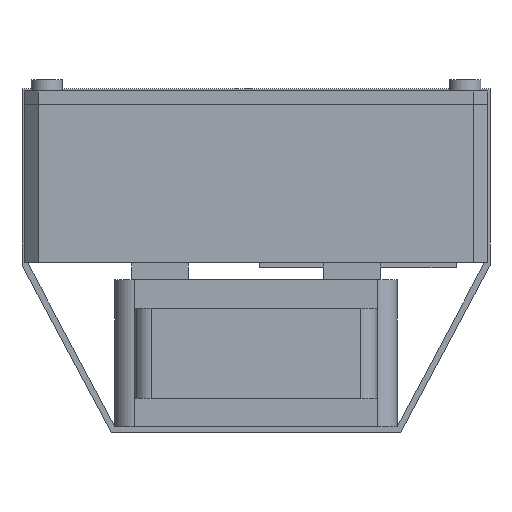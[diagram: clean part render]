
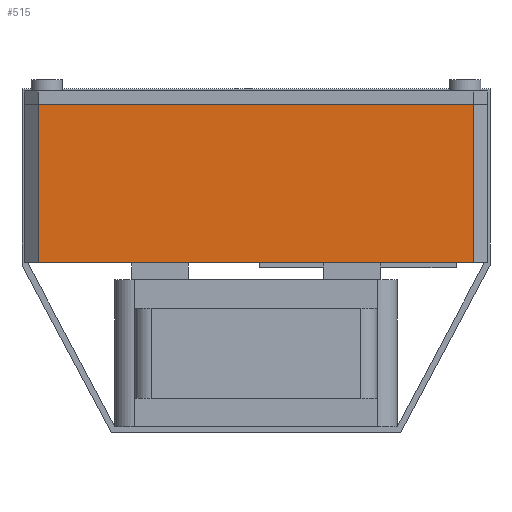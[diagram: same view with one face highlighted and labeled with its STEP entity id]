
A CAD part, front view. The second image highlights one B-rep face of the part: STEP entity #515.
In plain terms, the highlighted planar face has unit normal (0, -1, 0).
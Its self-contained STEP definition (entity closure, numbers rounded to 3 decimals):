
#515 = ADVANCED_FACE('',(#516),#530,.F.);
#516 = FACE_BOUND('',#517,.F.);
#517 = EDGE_LOOP('',(#518,#553,#581,#609));
#518 = ORIENTED_EDGE('',*,*,#519,.T.);
#519 = EDGE_CURVE('',#520,#522,#524,.T.);
#520 = VERTEX_POINT('',#521);
#521 = CARTESIAN_POINT('',(-38.5,-55.,0.));
#522 = VERTEX_POINT('',#523);
#523 = CARTESIAN_POINT('',(-38.5,-55.,28.));
#524 = SURFACE_CURVE('',#525,(#529,#541),.PCURVE_S1.);
#525 = LINE('',#526,#527);
#526 = CARTESIAN_POINT('',(-38.5,-55.,0.));
#527 = VECTOR('',#528,1.);
#528 = DIRECTION('',(0.,0.,1.));
#529 = PCURVE('',#530,#535);
#530 = PLANE('',#531);
#531 = AXIS2_PLACEMENT_3D('',#532,#533,#534);
#532 = CARTESIAN_POINT('',(-38.5,-55.,0.));
#533 = DIRECTION('',(0.,1.,0.));
#534 = DIRECTION('',(1.,0.,0.));
#535 = DEFINITIONAL_REPRESENTATION('',(#536),#540);
#536 = LINE('',#537,#538);
#537 = CARTESIAN_POINT('',(0.,0.));
#538 = VECTOR('',#539,1.);
#539 = DIRECTION('',(0.,-1.));
#540 = ( GEOMETRIC_REPRESENTATION_CONTEXT(2) 
PARAMETRIC_REPRESENTATION_CONTEXT() REPRESENTATION_CONTEXT('2D SPACE',''
  ) );
#541 = PCURVE('',#542,#547);
#542 = PLANE('',#543);
#543 = AXIS2_PLACEMENT_3D('',#544,#545,#546);
#544 = CARTESIAN_POINT('',(-41.,-52.5,0.));
#545 = DIRECTION('',(0.707,0.707,-0.));
#546 = DIRECTION('',(0.707,-0.707,0.));
#547 = DEFINITIONAL_REPRESENTATION('',(#548),#552);
#548 = LINE('',#549,#550);
#549 = CARTESIAN_POINT('',(3.536,0.));
#550 = VECTOR('',#551,1.);
#551 = DIRECTION('',(0.,-1.));
#552 = ( GEOMETRIC_REPRESENTATION_CONTEXT(2) 
PARAMETRIC_REPRESENTATION_CONTEXT() REPRESENTATION_CONTEXT('2D SPACE',''
  ) );
#553 = ORIENTED_EDGE('',*,*,#554,.T.);
#554 = EDGE_CURVE('',#522,#555,#557,.T.);
#555 = VERTEX_POINT('',#556);
#556 = CARTESIAN_POINT('',(38.5,-55.,28.));
#557 = SURFACE_CURVE('',#558,(#562,#569),.PCURVE_S1.);
#558 = LINE('',#559,#560);
#559 = CARTESIAN_POINT('',(-38.5,-55.,28.));
#560 = VECTOR('',#561,1.);
#561 = DIRECTION('',(1.,0.,0.));
#562 = PCURVE('',#530,#563);
#563 = DEFINITIONAL_REPRESENTATION('',(#564),#568);
#564 = LINE('',#565,#566);
#565 = CARTESIAN_POINT('',(0.,-28.));
#566 = VECTOR('',#567,1.);
#567 = DIRECTION('',(1.,0.));
#568 = ( GEOMETRIC_REPRESENTATION_CONTEXT(2) 
PARAMETRIC_REPRESENTATION_CONTEXT() REPRESENTATION_CONTEXT('2D SPACE',''
  ) );
#569 = PCURVE('',#570,#575);
#570 = PLANE('',#571);
#571 = AXIS2_PLACEMENT_3D('',#572,#573,#574);
#572 = CARTESIAN_POINT('',(0.,0.,28.));
#573 = DIRECTION('',(0.,0.,1.));
#574 = DIRECTION('',(1.,0.,-0.));
#575 = DEFINITIONAL_REPRESENTATION('',(#576),#580);
#576 = LINE('',#577,#578);
#577 = CARTESIAN_POINT('',(-38.5,-55.));
#578 = VECTOR('',#579,1.);
#579 = DIRECTION('',(1.,0.));
#580 = ( GEOMETRIC_REPRESENTATION_CONTEXT(2) 
PARAMETRIC_REPRESENTATION_CONTEXT() REPRESENTATION_CONTEXT('2D SPACE',''
  ) );
#581 = ORIENTED_EDGE('',*,*,#582,.F.);
#582 = EDGE_CURVE('',#583,#555,#585,.T.);
#583 = VERTEX_POINT('',#584);
#584 = CARTESIAN_POINT('',(38.5,-55.,0.));
#585 = SURFACE_CURVE('',#586,(#590,#597),.PCURVE_S1.);
#586 = LINE('',#587,#588);
#587 = CARTESIAN_POINT('',(38.5,-55.,0.));
#588 = VECTOR('',#589,1.);
#589 = DIRECTION('',(0.,0.,1.));
#590 = PCURVE('',#530,#591);
#591 = DEFINITIONAL_REPRESENTATION('',(#592),#596);
#592 = LINE('',#593,#594);
#593 = CARTESIAN_POINT('',(77.,0.));
#594 = VECTOR('',#595,1.);
#595 = DIRECTION('',(0.,-1.));
#596 = ( GEOMETRIC_REPRESENTATION_CONTEXT(2) 
PARAMETRIC_REPRESENTATION_CONTEXT() REPRESENTATION_CONTEXT('2D SPACE',''
  ) );
#597 = PCURVE('',#598,#603);
#598 = PLANE('',#599);
#599 = AXIS2_PLACEMENT_3D('',#600,#601,#602);
#600 = CARTESIAN_POINT('',(38.5,-55.,0.));
#601 = DIRECTION('',(-0.707,0.707,0.));
#602 = DIRECTION('',(0.707,0.707,0.));
#603 = DEFINITIONAL_REPRESENTATION('',(#604),#608);
#604 = LINE('',#605,#606);
#605 = CARTESIAN_POINT('',(0.,0.));
#606 = VECTOR('',#607,1.);
#607 = DIRECTION('',(0.,-1.));
#608 = ( GEOMETRIC_REPRESENTATION_CONTEXT(2) 
PARAMETRIC_REPRESENTATION_CONTEXT() REPRESENTATION_CONTEXT('2D SPACE',''
  ) );
#609 = ORIENTED_EDGE('',*,*,#610,.F.);
#610 = EDGE_CURVE('',#520,#583,#611,.T.);
#611 = SURFACE_CURVE('',#612,(#616,#623),.PCURVE_S1.);
#612 = LINE('',#613,#614);
#613 = CARTESIAN_POINT('',(-38.5,-55.,0.));
#614 = VECTOR('',#615,1.);
#615 = DIRECTION('',(1.,0.,0.));
#616 = PCURVE('',#530,#617);
#617 = DEFINITIONAL_REPRESENTATION('',(#618),#622);
#618 = LINE('',#619,#620);
#619 = CARTESIAN_POINT('',(0.,0.));
#620 = VECTOR('',#621,1.);
#621 = DIRECTION('',(1.,0.));
#622 = ( GEOMETRIC_REPRESENTATION_CONTEXT(2) 
PARAMETRIC_REPRESENTATION_CONTEXT() REPRESENTATION_CONTEXT('2D SPACE',''
  ) );
#623 = PCURVE('',#624,#629);
#624 = PLANE('',#625);
#625 = AXIS2_PLACEMENT_3D('',#626,#627,#628);
#626 = CARTESIAN_POINT('',(0.,0.,0.));
#627 = DIRECTION('',(0.,0.,1.));
#628 = DIRECTION('',(1.,0.,-0.));
#629 = DEFINITIONAL_REPRESENTATION('',(#630),#634);
#630 = LINE('',#631,#632);
#631 = CARTESIAN_POINT('',(-38.5,-55.));
#632 = VECTOR('',#633,1.);
#633 = DIRECTION('',(1.,0.));
#634 = ( GEOMETRIC_REPRESENTATION_CONTEXT(2) 
PARAMETRIC_REPRESENTATION_CONTEXT() REPRESENTATION_CONTEXT('2D SPACE',''
  ) );
